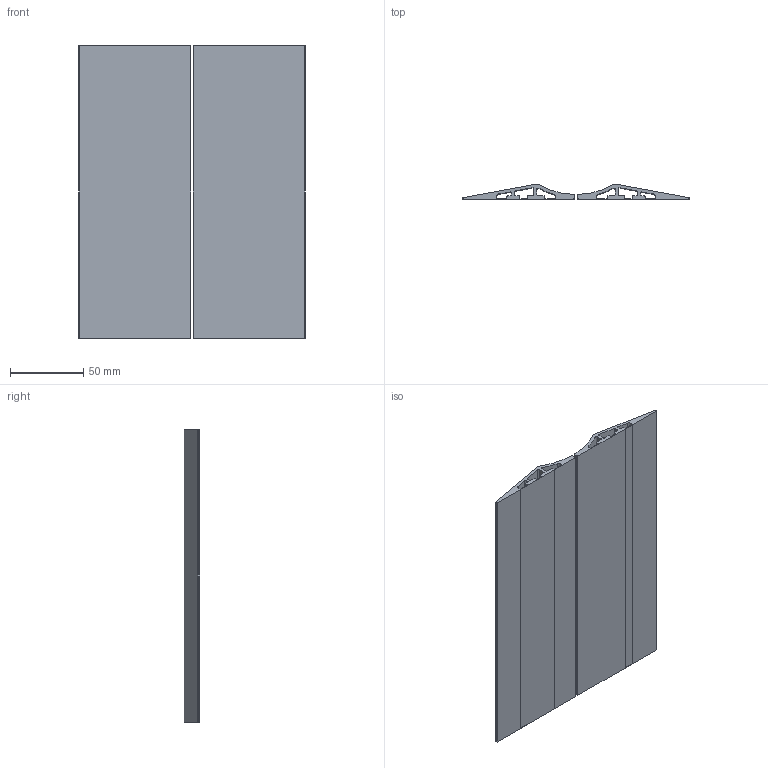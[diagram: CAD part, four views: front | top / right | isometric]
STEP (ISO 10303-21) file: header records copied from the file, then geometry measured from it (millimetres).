
FILE_DESCRIPTION(/* description */ ('STEP AP203'),/* implementation_level */ '2;1');
FILE_NAME(/* name */ '02081AHH.1200',/* time_stamp */ '2026-01-27T14:30:25+01:00',/* author */ ('License CC BY-ND 4.0'),/* organization */ ('CADENAS'),/* preprocessor_version */ 'ST-DEVELOPER v20',/* originating_system */ 'PARTsolutions',/* authorisation */ ' ');
FILE_SCHEMA (('CONFIG_CONTROL_DESIGN'));
Length unit declared in the file: millimetre
Products named in the file (2): 02081AHH.1200; 02081AHH.12002
Assembly tree (2 placements, depth 2):
  02081AHH.1200
    02081AHH.12002  x2
Bounding box: 154.76 x 10.56 x 200 mm (x, y, z)
Volume: 118337.8 mm3; surface area: 105459.7 mm2
Topology: 2 solids, 2 shells, 96 faces, 276 edges, 184 vertices
Faces by surface type: plane 58, cylinder 38
Entity records: 1640 total; most frequent: CARTESIAN_POINT 281, DIRECTION 278, ORIENTED_EDGE 276, EDGE_CURVE 138, LINE 100, VECTOR 100, VERTEX_POINT 92, AXIS2_PLACEMENT_3D 89
